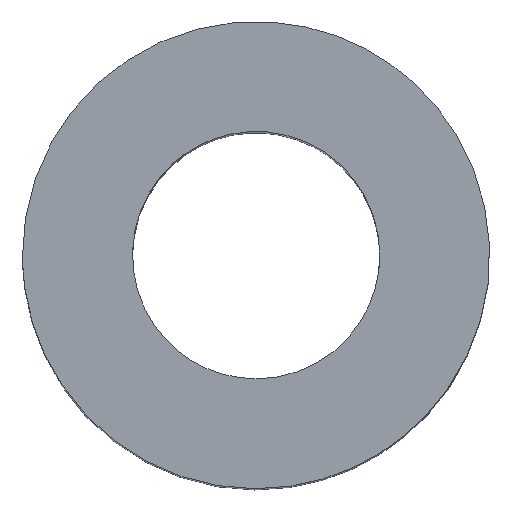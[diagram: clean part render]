
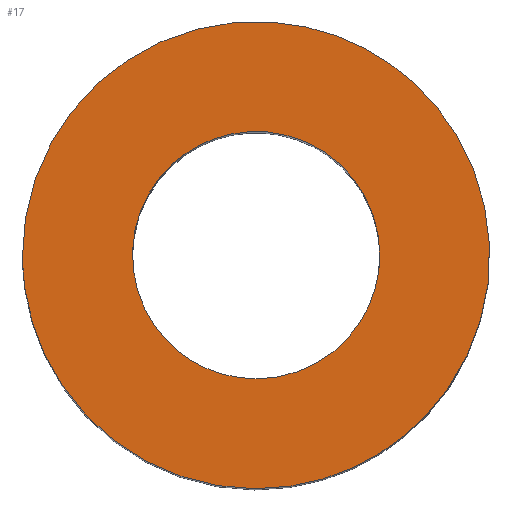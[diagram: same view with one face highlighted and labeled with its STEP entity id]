
A CAD part, top view. The second image highlights one B-rep face of the part: STEP entity #17.
In plain terms, the highlighted free-form (B-spline) face has degree [1, 1] with [2, 2] control points.
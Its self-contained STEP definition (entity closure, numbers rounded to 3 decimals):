
#17 = ADVANCED_FACE('',(#18,#32),#46,.T.);
#18 = FACE_BOUND('',#19,.T.);
#19 = EDGE_LOOP('',(#20));
#20 = ORIENTED_EDGE('',*,*,#21,.F.);
#21 = EDGE_CURVE('',#22,#22,#24,.T.);
#22 = VERTEX_POINT('',#23);
#23 = CARTESIAN_POINT('',(1.35,0.,8.));
#24 = ( BOUNDED_CURVE() B_SPLINE_CURVE(2,(#25,#26,#27,#28,#29,#30,#31),
.UNSPECIFIED.,.T.,.F.) B_SPLINE_CURVE_WITH_KNOTS((1,2,2,2,2,1),(
    -2.094,0.,2.094,4.189,6.283,
8.378),.UNSPECIFIED.) CURVE() GEOMETRIC_REPRESENTATION_ITEM() 
RATIONAL_B_SPLINE_CURVE((1.,0.5,1.,0.5,1.,0.5,1.)) REPRESENTATION_ITEM(
  '') );
#25 = CARTESIAN_POINT('',(1.35,0.,8.));
#26 = CARTESIAN_POINT('',(1.35,2.338,8.));
#27 = CARTESIAN_POINT('',(-0.675,1.169,8.));
#28 = CARTESIAN_POINT('',(-2.7,0.,8.));
#29 = CARTESIAN_POINT('',(-0.675,-1.169,8.));
#30 = CARTESIAN_POINT('',(1.35,-2.338,8.));
#31 = CARTESIAN_POINT('',(1.35,0.,8.));
#32 = FACE_BOUND('',#33,.T.);
#33 = EDGE_LOOP('',(#34));
#34 = ORIENTED_EDGE('',*,*,#35,.F.);
#35 = EDGE_CURVE('',#36,#36,#38,.T.);
#36 = VERTEX_POINT('',#37);
#37 = CARTESIAN_POINT('',(-2.55,0.,8.));
#38 = ( BOUNDED_CURVE() B_SPLINE_CURVE(2,(#39,#40,#41,#42,#43,#44,#45),
.UNSPECIFIED.,.T.,.F.) B_SPLINE_CURVE_WITH_KNOTS((1,2,2,2,2,1),(
    -2.094,0.,2.094,4.189,6.283,
8.378),.UNSPECIFIED.) CURVE() GEOMETRIC_REPRESENTATION_ITEM() 
RATIONAL_B_SPLINE_CURVE((1.,0.5,1.,0.5,1.,0.5,1.)) REPRESENTATION_ITEM(
  '') );
#39 = CARTESIAN_POINT('',(-2.55,0.,8.));
#40 = CARTESIAN_POINT('',(-2.55,4.417,8.));
#41 = CARTESIAN_POINT('',(1.275,2.208,8.));
#42 = CARTESIAN_POINT('',(5.1,0.,8.));
#43 = CARTESIAN_POINT('',(1.275,-2.208,8.));
#44 = CARTESIAN_POINT('',(-2.55,-4.417,8.));
#45 = CARTESIAN_POINT('',(-2.55,0.,8.));
#46 = B_SPLINE_SURFACE_WITH_KNOTS('',1,1,(
    (#47,#48)
    ,(#49,#50
    )),.UNSPECIFIED.,.F.,.F.,.F.,(2,2),(2,2),(0.,5.1),(
    -2.55,2.55),.PIECEWISE_BEZIER_KNOTS.);
#47 = CARTESIAN_POINT('',(-2.55,-2.55,8.));
#48 = CARTESIAN_POINT('',(-2.55,2.55,8.));
#49 = CARTESIAN_POINT('',(2.55,-2.55,8.));
#50 = CARTESIAN_POINT('',(2.55,2.55,8.));
